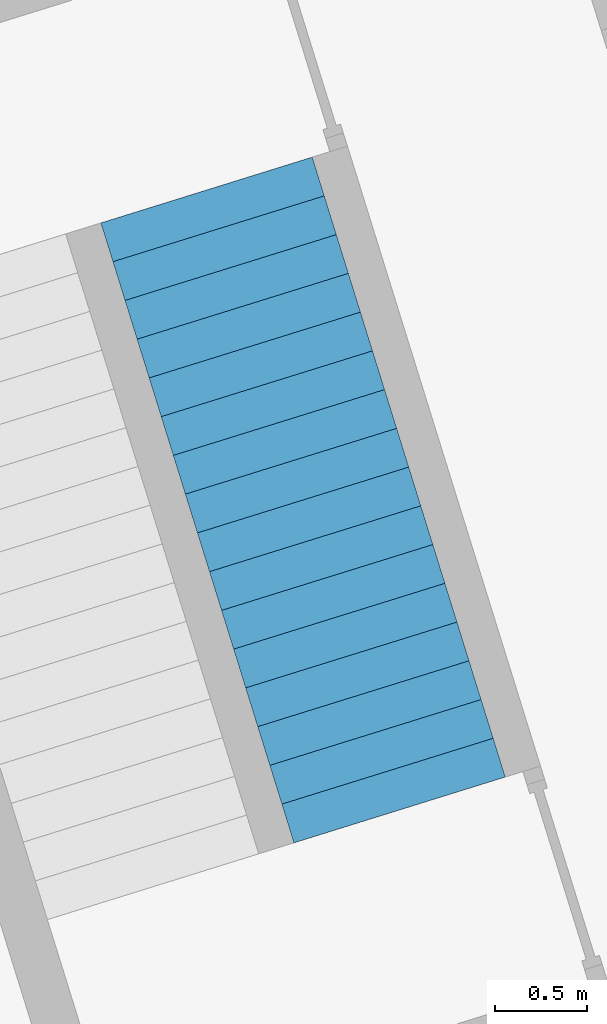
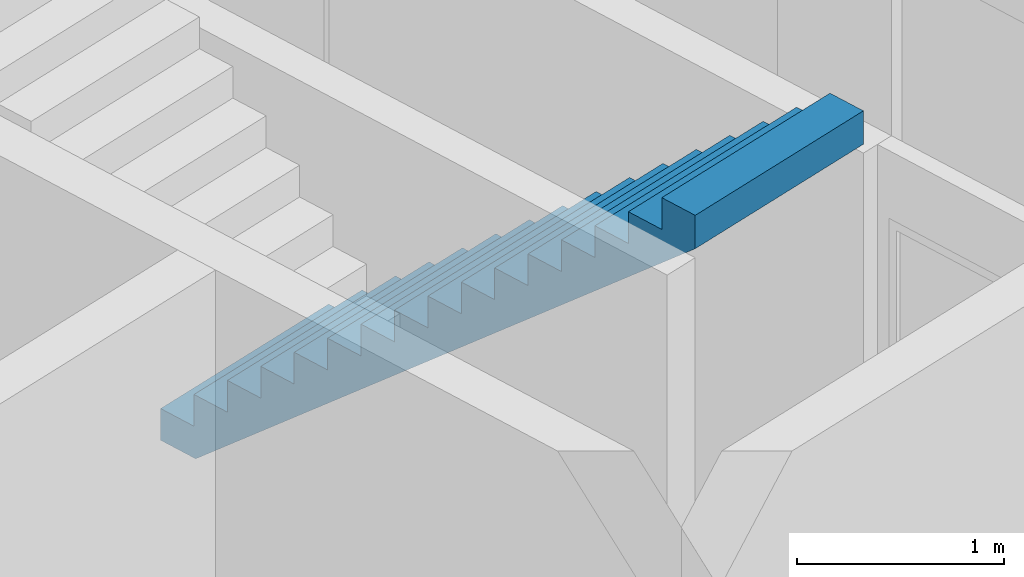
# One storey, part 5 of 5: 1 stair flight, 1 element without a shape of its own.
"""IFC4 building model written with IfcOpenShell, lengths in metres."""

from ifc_helpers import new_model, entity, si_unit, converted_unit, direction, frame, origin, place, context, subcontext, project, spatial, polygons, material, type_object, element, aggregate, save


model = new_model("IFC4")

# Units and contexts
model_context = context("Model", 3, precision=1e-05, world=origin(), true_north=direction((6.12323399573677e-17, 1.0)))
body_context = subcontext(model_context, "Body", "Model", "MODEL_VIEW")
ifc_project = project(units=[si_unit("LENGTHUNIT", "METRE"), si_unit("AREAUNIT", "SQUARE_METRE"), si_unit("VOLUMEUNIT", "CUBIC_METRE"), converted_unit("PLANEANGLEUNIT", "DEGREE", entity("IfcPlaneAngleMeasure", 0.0174532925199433), si_unit("PLANEANGLEUNIT", "RADIAN"), dimensions=[0, 0, 0, 0, 0, 0, 0])], contexts=[model_context])

# Site, building, storey
site_placement = place(None, frame((13.1347999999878, 11.9886000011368, 0.0), z_axis=(0.0, 0.0, 1.0), x_axis=(0.954770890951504, 0.297342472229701, 0.0)))
site = spatial("IfcSite", under=ifc_project, at=site_placement, Name="Schiehaven", CompositionType="ELEMENT")
building_placement = place(site_placement, origin())
building = spatial("IfcBuilding", under=site, at=building_placement, Name="VORM huis", CompositionType="ELEMENT")
storey_placement = place(building_placement, frame((0.0, 0.0, 3.9)))
storey = spatial("IfcBuildingStorey", under=building, at=storey_placement, Name="01 eerste verdieping", CompositionType="ELEMENT", Elevation=3.9)

# Stair, stair flight
stair_type = type_object("IfcStairType", Name="Trap", PredefinedType="STRAIGHT_RUN_STAIR")
stair_placement = place(storey_placement, origin())
stair = element("IfcStair", 1, at=stair_placement, inside=storey, type_object=stair_type, Name="Hoofdtrap", ObjectType="Trap", PredefinedType="STRAIGHT_RUN_STAIR")
ifc_material = material(Name="beton_gewapend_prefab-element", Category="Miscellaneous")
stair_flight_type = type_object("IfcStairFlightType", Name="Monolithic Run:NLRS_24_STRR_trap-beton prefab-monolithisch-recht_gen_rsf", PredefinedType="STRAIGHT")
stair_flight_placement = place(stair_placement, frame((66.5250000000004, 15.29, 0.0)))
stair_flight = element("IfcStairFlight", 2, at=stair_flight_placement, type_object=stair_flight_type, material=ifc_material, Name="Hoofdtrap Run 1", ObjectType="Monolithic Run:NLRS_24_STRR_trap-beton prefab-monolithisch-recht_gen_rsf", PredefinedType="STRAIGHT", context=body_context, shape_type="Tessellation", body=[
    polygons([(1.2, 3.3, 0.1875), (1.2, 3.52, 0.1875), (0.0, 3.52, 0.1875), (0.0, 3.3, 0.1875), (0.0, 3.52, -4.44089209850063e-16), (0.0, 3.3, -4.44089209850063e-16), (1.2, 3.52, -4.44089209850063e-16), (1.2, 3.3, -4.44089209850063e-16), (1.2, 3.08, 0.375), (1.2, 3.3, 0.375), (0.0, 3.3, 0.375), (0.0, 3.08, 0.375), (0.0, 3.28875121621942, -4.44089209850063e-16), (0.0, 3.08000000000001, 0.177912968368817), (1.2, 3.08000000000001, 0.177912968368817), (1.2, 3.28875121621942, -4.44089209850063e-16), (1.20000000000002, 2.86000000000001, 0.5625), (1.2, 3.08, 0.5625), (0.0, 3.08, 0.5625), (0.0, 2.86000000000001, 0.5625), (0.0, 2.86, 0.365412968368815), (1.2, 2.86, 0.365412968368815), (1.2, 2.64000000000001, 0.75), (1.2, 2.86000000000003, 0.75), (0.0, 2.86000000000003, 0.75), (0.0, 2.64000000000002, 0.75), (0.0, 2.64000000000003, 0.552912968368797), (1.2, 2.64000000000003, 0.552912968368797), (1.20000000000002, 2.42, 0.9375), (1.2, 2.64, 0.9375), (0.0, 2.64, 0.9375), (1.4210854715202e-14, 2.42, 0.9375), (0.0, 2.42, 0.740412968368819), (1.2, 2.42, 0.740412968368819), (1.20000000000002, 2.2, 1.125), (1.2, 2.42, 1.125), (0.0, 2.42, 1.125), (1.4210854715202e-14, 2.2, 1.125), (0.0, 2.20000000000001, 0.927912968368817), (1.2, 2.20000000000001, 0.927912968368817), (1.20000000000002, 1.98, 1.3125), (1.2, 2.2, 1.3125), (0.0, 2.2, 1.3125), (1.4210854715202e-14, 1.98, 1.3125), (0.0, 1.98, 1.11541296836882), (1.2, 1.98, 1.11541296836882), (1.20000000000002, 1.76, 1.5), (1.2, 1.98, 1.5), (0.0, 1.98, 1.5), (1.4210854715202e-14, 1.76, 1.5), (0.0, 1.76000000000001, 1.30291296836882), (1.2, 1.76000000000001, 1.30291296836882), (1.20000000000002, 1.54, 1.6875), (1.2, 1.76, 1.6875), (0.0, 1.76, 1.6875), (1.4210854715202e-14, 1.54, 1.6875), (0.0, 1.54, 1.49041296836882), (1.2, 1.54, 1.49041296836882), (1.20000000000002, 1.32, 1.875), (1.2, 1.54, 1.875), (0.0, 1.54, 1.875), (1.4210854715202e-14, 1.32, 1.875), (0.0, 1.32, 1.67791296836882), (1.2, 1.32, 1.67791296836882), (1.20000000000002, 1.10000000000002, 2.0625), (1.2, 1.32, 2.0625), (0.0, 1.32, 2.0625), (1.4210854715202e-14, 1.10000000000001, 2.0625), (0.0, 1.1, 1.86541296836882), (1.2, 1.1, 1.86541296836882), (1.20000000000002, 0.880000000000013, 2.25), (1.2, 1.10000000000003, 2.25), (0.0, 1.10000000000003, 2.25), (1.4210854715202e-14, 0.880000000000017, 2.25), (1.4210854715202e-14, 0.880000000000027, 2.0529129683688), (1.20000000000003, 0.880000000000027, 2.0529129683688), (1.20000000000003, 0.660000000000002, 2.4375), (1.20000000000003, 0.880000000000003, 2.4375), (1.4210854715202e-14, 0.880000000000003, 2.4375), (1.4210854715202e-14, 0.660000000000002, 2.4375), (1.4210854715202e-14, 0.660000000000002, 2.24041296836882), (1.20000000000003, 0.660000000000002, 2.24041296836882), (1.20000000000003, 0.440000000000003, 2.625), (1.20000000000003, 0.660000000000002, 2.625), (1.4210854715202e-14, 0.660000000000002, 2.625), (1.4210854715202e-14, 0.440000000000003, 2.625), (1.4210854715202e-14, 0.440000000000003, 2.42791296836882), (1.20000000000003, 0.440000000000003, 2.42791296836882), (1.20000000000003, 0.220000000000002, 2.8125), (1.20000000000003, 0.440000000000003, 2.8125), (1.4210854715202e-14, 0.440000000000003, 2.8125), (1.4210854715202e-14, 0.220000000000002, 2.8125), (1.4210854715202e-14, 0.220000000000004, 2.61541296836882), (1.20000000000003, 0.220000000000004, 2.61541296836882), (1.20000000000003, 3.5527136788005e-15, 3.0), (1.20000000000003, 0.220000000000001, 3.0), (1.4210854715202e-14, 0.220000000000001, 3.0), (1.4210854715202e-14, 3.5527136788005e-15, 3.0), (1.4210854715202e-14, 3.5527136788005e-15, 2.80291296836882), (1.20000000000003, 3.5527136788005e-15, 2.80291296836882)], [[[1, 2, 3, 4]], [[4, 3, 5, 6]], [[3, 2, 7, 5]], [[2, 1, 8, 7]], [[9, 10, 11, 12]], [[4, 6, 13, 14, 12, 11]], [[1, 4, 11, 10]], [[8, 1, 10, 9, 15, 16]], [[17, 18, 19, 20]], [[20, 19, 12, 14, 21]], [[9, 12, 19, 18]], [[18, 17, 22, 15, 9]], [[23, 24, 25, 26]], [[26, 25, 20, 21, 27]], [[17, 20, 25, 24]], [[24, 23, 28, 22, 17]], [[29, 30, 31, 32]], [[32, 31, 26, 27, 33]], [[23, 26, 31, 30]], [[30, 29, 34, 28, 23]], [[35, 36, 37, 38]], [[38, 37, 32, 33, 39]], [[29, 32, 37, 36]], [[36, 35, 40, 34, 29]], [[41, 42, 43, 44]], [[44, 43, 38, 39, 45]], [[35, 38, 43, 42]], [[42, 41, 46, 40, 35]], [[47, 48, 49, 50]], [[50, 49, 44, 45, 51]], [[41, 44, 49, 48]], [[48, 47, 52, 46, 41]], [[53, 54, 55, 56]], [[56, 55, 50, 51, 57]], [[47, 50, 55, 54]], [[54, 53, 58, 52, 47]], [[59, 60, 61, 62]], [[62, 61, 56, 57, 63]], [[53, 56, 61, 60]], [[60, 59, 64, 58, 53]], [[65, 66, 67, 68]], [[68, 67, 62, 63, 69]], [[59, 62, 67, 66]], [[66, 65, 70, 64, 59]], [[71, 72, 73, 74]], [[74, 73, 68, 69, 75]], [[65, 68, 73, 72]], [[72, 71, 76, 70, 65]], [[77, 78, 79, 80]], [[80, 79, 74, 75, 81]], [[71, 74, 79, 78]], [[78, 77, 82, 76, 71]], [[83, 84, 85, 86]], [[86, 85, 80, 81, 87]], [[77, 80, 85, 84]], [[84, 83, 88, 82, 77]], [[89, 90, 91, 92]], [[92, 91, 86, 87, 93]], [[83, 86, 91, 90]], [[90, 89, 94, 88, 83]], [[95, 96, 97, 98]], [[98, 97, 92, 93, 99]], [[89, 92, 97, 96]], [[96, 95, 100, 94, 89]], [[95, 98, 99, 100]], [[7, 8, 16, 13, 6, 5]], [[13, 16, 15, 22, 28, 34, 40, 46, 52, 58, 64, 70, 76, 82, 88, 94, 100, 99, 93, 87, 81, 75, 69, 63, 57, 51, 45, 39, 33, 27, 21, 14]]], closed=True),
])
aggregate(stair, [stair_flight])

save(model, "model.ifc")
